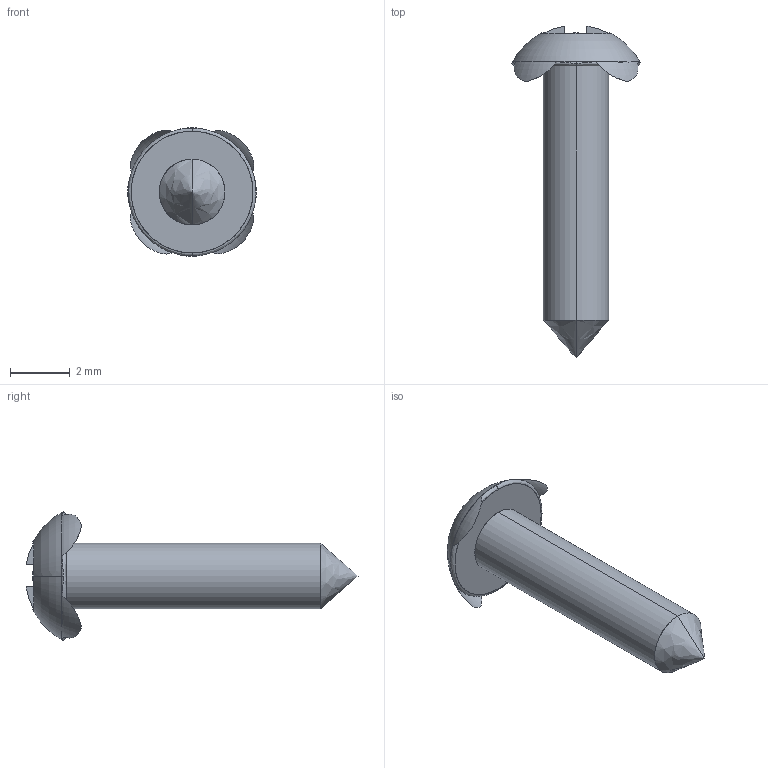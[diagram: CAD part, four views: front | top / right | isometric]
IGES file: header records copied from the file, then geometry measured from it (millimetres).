
Start section: SolidWorks IGES file using analytic representation for surfaces
Global section: file name: C:\Users\AndreBernot\Downloads\K-RACER-L_3D_SW\K-RACER-L_3D_SW\Vis 2.2 x 8.5.IGS; native system: SolidWorks 2015; preprocessor: SolidWorks 2015; author: AndreBernot; date: 170922.151746; units: millimetre
Bounding box: 4.3 x 11.1 x 4.3 mm (x, y, z)
Surface area: 102.7 mm2 (no closed solid volume)
Topology: 0 solids, 0 shells, 22 faces, 210 edges, 208 vertices
Faces by surface type: bspline 16, revolution 6
